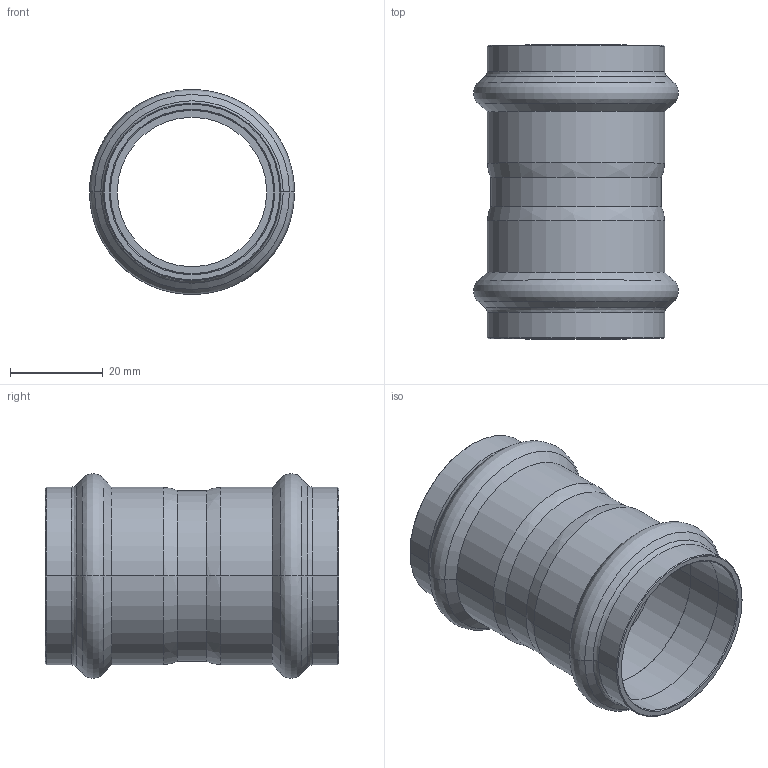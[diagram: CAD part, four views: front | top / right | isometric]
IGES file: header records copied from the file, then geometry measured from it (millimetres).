
Start section: Elysium IGES Interface
Global section: file name: C:\3d modellen sudo\C-Pr VP\SP8270V\8270VW35.igs; native system: CoCreate Modeling 17.00A  17-Jun-2010; preprocessor: CoCreate IGES_3D V2.2; author: Unknown; organization: Unknown; date: 20130129.115812; units: millimetre
Bounding box: 44.3 x 63.51 x 44.27 mm (x, y, z)
Volume: 15380.1 mm3; surface area: 16358.2 mm2
Topology: 1 solids, 1 shells, 74 faces, 158 edges, 84 vertices
Faces by surface type: bspline 74
